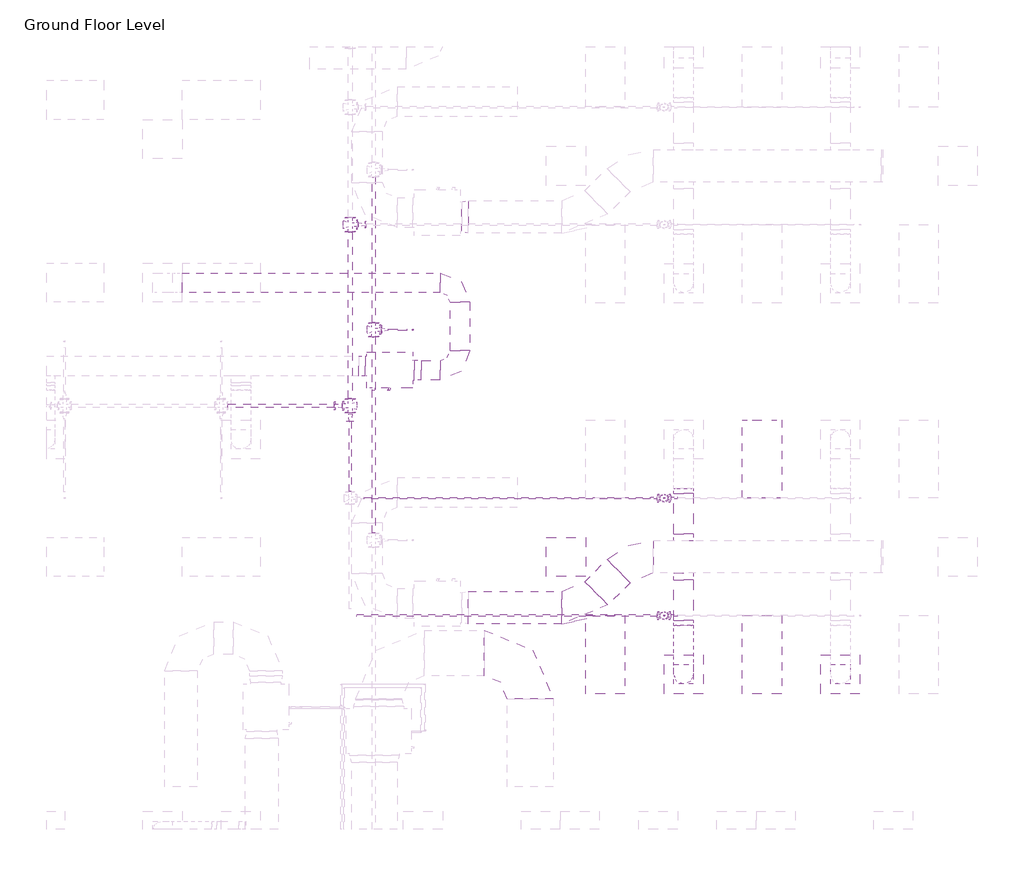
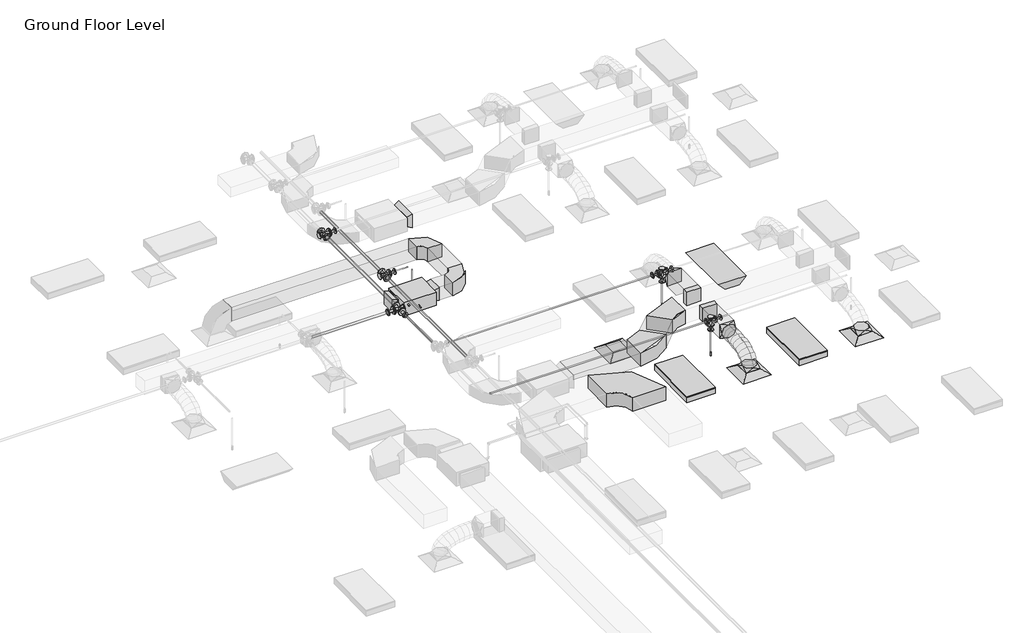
# One storey, part 35 of 66: 14 duct fittings, 14 pipe fittings, 11 pipe segments, 8 duct segments, 3 air terminals, 3 fire suppression terminals, 3 light fixtures, 1 proxy.
"""IFC4 building model written with IfcOpenShell, lengths in millimetres."""

from ifc_helpers import new_model, si_unit, point, frame, frame_2d, origin, place, context, project, spatial, polyline, circle_curve, ellipse_curve, trimmed, segment, composite_curve, outline, extrude, transform, mapped, element, save
from ifc_brep_helpers import plane_surface, cylinder_surface, advanced_brep
from components import m_return_diffuser_600_x_600_face_300_x_300_connection_ff221211, fcu_daikin_iu_27d020f6, m_rectangular_elbow_radius_1_w_618da153, m_rectangular_elbow_radius_1_w_8a62b27e, m_rectangular_elbow_radius_1_5_w_acc56c25, m_rectangular_takeoff_standard_cb0ccb98, m_rectangular_takeoff_standard_2be5eba1, m_rectangular_transition_angle_45_degree_2b595dfe, m_rectangular_transition_angle_45_degree_bfac0661, m_rectangular_transition_angle_45_degree_da897c11, m_rectangular_to_round_transition_angle_45_degree_641efff0, m_sprinkler_dry_pendent_hosted_15_mm_dry_pendent_9bda8e11, m_sprinkler_pendent_15_mm_pendent_06fcbd8e, m_emergency_recessed_lighting_fixture_600x1200_277_5b10b25d, m_troffer_light_parabolic_rectangular1_0600x1200mm_4_lamp_86473d4a, m_reducer_flanged_cs_class_150_standard_ccf252ad, m_reducer_flanged_cs_class_150_standard_83138b42, m_reducer_flanged_cs_class_150_standard_3ab32b2b, m_reducer_flanged_cs_class_150_standard_a7631c35, m_tee_round_base_flanged_cs_class_150_standard_dd767e04, m_tee_round_base_flanged_cs_class_150_standard_7e5987a1, m_tee_round_base_flanged_cs_class_150_standard_ab36f383

model = new_model("IFC4")

# Units and contexts
model_context = context("Model", 3, world=origin())
ifc_project = project(units=[si_unit("LENGTHUNIT", "METRE", prefix="MILLI")], contexts=[model_context])

# Site, building, storey
site = spatial("IfcSite", under=ifc_project)
building = spatial("IfcBuilding", under=site)
storey = spatial("IfcBuildingStorey", under=building, Name="Ground Floor Level", Elevation=900.0)

# Air terminals
placement = place(None, origin())
m_return_diffuser_600_x_600_face_300_x_300_connection_shape = m_return_diffuser_600_x_600_face_300_x_300_connection_ff221211(model_context)
element("IfcAirTerminal", 1, ObjectType="M_Return Diffuser : 600 x 600 Face 300 x 300 Connection", at=placement, inside=storey, context=model_context, shape_type="MappedRepresentation", body=[
    mapped(m_return_diffuser_600_x_600_face_300_x_300_connection_shape, transform((8942.7672395, -5264.7846466, 3650.0), x_axis=(1.0, 0.0, 0.0), y_axis=(0.0, 1.0, 0.0), z_axis=(0.0, 0.0, 1.0))),
])
element("IfcAirTerminal", 2, ObjectType="M_Supply Diffuser : 600 x 600 Face 300 x 300 Connection", at=placement, inside=storey, context=model_context, shape_type="MappedRepresentation", body=[
    mapped(m_return_diffuser_600_x_600_face_300_x_300_connection_shape, transform((10742.7672395, -7064.7846466, 3650.0), x_axis=(1.0, 0.0, 0.0), y_axis=(0.0, 1.0, 0.0), z_axis=(0.0, 0.0, 1.0))),
])
element("IfcAirTerminal", 3, ObjectType="M_Supply Diffuser : 600 x 600 Face 300 x 300 Connection", at=placement, inside=storey, context=model_context, shape_type="MappedRepresentation", body=[
    mapped(m_return_diffuser_600_x_600_face_300_x_300_connection_shape, transform((13142.7672395, -7064.7846466, 3650.0), x_axis=(1.0, 0.0, 0.0), y_axis=(0.0, 1.0, 0.0), z_axis=(0.0, 0.0, 1.0))),
])

# Proxy
fcu_daikin_iu_shape = fcu_daikin_iu_27d020f6(model_context)
element("IfcBuildingElementProxy", 4, Name="FCU-DAIKIN IU : 2.3kW, 230V/50Hz/1Ph", ObjectType="FCU-DAIKIN IU : 2.3kW, 230V/50Hz/1Ph", at=placement, inside=storey, context=model_context, shape_type="MappedRepresentation", body=[
    mapped(fcu_daikin_iu_shape, transform((6243.4139492, -2405.2438478, 3934.0874667), x_axis=(0.0, -1.0, 0.0), y_axis=(1.0, 0.0, 0.0), z_axis=(0.0, 0.0, 1.0))),
])

# Duct fittings
m_rectangular_elbow_radius_1_w_shape = m_rectangular_elbow_radius_1_w_618da153(model_context)
element("IfcDuctFitting", 5, ObjectType="M_Rectangular Elbow - Radius : 1 W", at=placement, inside=storey, context=model_context, shape_type="MappedRepresentation", body=[
    mapped(m_rectangular_elbow_radius_1_w_shape, transform((7318.8139492, -2405.2438478, 4075.2874667), x_axis=(1.0, 0.0, 0.0), y_axis=(0.0, 1.0, 0.0), z_axis=(0.0, 0.0, 1.0))),
])
element("IfcDuctFitting", 6, ObjectType="M_Rectangular Elbow - Radius : 1 W", at=placement, inside=storey, context=model_context, shape_type="MappedRepresentation", body=[
    mapped(m_rectangular_elbow_radius_1_w_shape, transform((7318.8139492, -1064.7846466, 4075.2874667), x_axis=(0.0, 1.0, 0.0), y_axis=(-1.0, 0.0, 0.0), z_axis=(0.0, 0.0, 1.0))),
])
m_rectangular_elbow_radius_1_w_2_shape = m_rectangular_elbow_radius_1_w_8a62b27e(model_context)
element("IfcDuctFitting", 7, ObjectType="M_Rectangular Elbow - Radius : 1 W", at=placement, inside=storey, context=model_context, shape_type="MappedRepresentation", body=[
    mapped(m_rectangular_elbow_radius_1_w_2_shape, transform((8393.4139492, -6738.5358641, 4075.2875), x_axis=(0.0, 1.0, 0.0), y_axis=(-1.0, 0.0, 0.0), z_axis=(0.0, 0.0, 1.0))),
])
m_rectangular_elbow_radius_1_5_w_shape = m_rectangular_elbow_radius_1_5_w_acc56c25(model_context)
element("IfcDuctFitting", 8, ObjectType="M_Rectangular Elbow - Radius : 1.5 W", at=placement, inside=storey, context=model_context, shape_type="MappedRepresentation", body=[
    mapped(m_rectangular_elbow_radius_1_5_w_shape, transform((9187.6927358, -6043.8220473, 4100.0047224), x_axis=(0.9999999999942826, 0.0, -3.3815582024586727e-06), y_axis=(-9.063610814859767e-12, 0.9999999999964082, -2.680306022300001e-06), z_axis=(3.3815582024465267e-06, 2.6803060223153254e-06, 0.9999999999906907))),
])
element("IfcDuctFitting", 9, ObjectType="M_Rectangular Elbow - Radius : 1.5 W", at=placement, inside=storey, context=model_context, shape_type="MappedRepresentation", body=[
    mapped(m_rectangular_elbow_radius_1_5_w_shape, transform((9966.7301365, -5264.7846466, 4100.0), x_axis=(-1.0, 0.0, 0.0), y_axis=(0.0, -0.9999999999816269, 6.061864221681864e-06), z_axis=(0.0, 6.061864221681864e-06, 0.9999999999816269))),
])
m_rectangular_takeoff_standard_shape = m_rectangular_takeoff_standard_cb0ccb98(model_context)
element("IfcDuctFitting", 10, ObjectType="M_Rectangular Takeoff : Standard", at=placement, inside=storey, context=model_context, shape_type="MappedRepresentation", body=[
    mapped(m_rectangular_takeoff_standard_shape, transform((10742.7672395, -5014.7846466, 4100.0), x_axis=(0.0, 1.0, 0.0), y_axis=(1.0, 0.0, 0.0), z_axis=(0.0, 0.0, -1.0))),
])
m_rectangular_takeoff_standard_2_shape = m_rectangular_takeoff_standard_2be5eba1(model_context)
element("IfcDuctFitting", 11, ObjectType="M_Rectangular Takeoff : Standard", at=placement, inside=storey, context=model_context, shape_type="MappedRepresentation", body=[
    mapped(m_rectangular_takeoff_standard_2_shape, transform((10742.7672395, -5514.7846466, 4100.0), x_axis=(0.0, -1.0, 0.0), y_axis=(-1.0, 0.0, 0.0), z_axis=(0.0, 0.0, -1.0))),
])
m_rectangular_transition_angle_45_degree_shape = m_rectangular_transition_angle_45_degree_2b595dfe(model_context)
element("IfcDuctFitting", 12, ObjectType="M_Rectangular Transition - Angle : 45 Degree", at=placement, inside=storey, context=model_context, shape_type="MappedRepresentation", body=[
    mapped(m_rectangular_transition_angle_45_degree_shape, transform((7344.2139492, -53.8220473, 4100.0057729), x_axis=(1.0, 0.0, 0.0), y_axis=(0.0, 1.0, 0.0), z_axis=(0.0, 0.0, 1.0))),
])
m_rectangular_transition_angle_45_degree_2_shape = m_rectangular_transition_angle_45_degree_bfac0661(model_context)
element("IfcDuctFitting", 13, ObjectType="M_Rectangular Transition - Angle : 45 Degree", at=placement, inside=storey, context=model_context, shape_type="MappedRepresentation", body=[
    mapped(m_rectangular_transition_angle_45_degree_2_shape, transform((6618.8139492, -2405.2438478, 4075.2874667), x_axis=(1.0, 0.0, 0.0), y_axis=(0.0, 1.0, 0.0), z_axis=(0.0, 0.0, 1.0))),
])
m_rectangular_transition_angle_45_degree_3_shape = m_rectangular_transition_angle_45_degree_da897c11(model_context)
element("IfcDuctFitting", 14, ObjectType="M_Rectangular Transition - Angle : 45 Degree", at=placement, inside=storey, context=model_context, shape_type="MappedRepresentation", body=[
    mapped(m_rectangular_transition_angle_45_degree_3_shape, transform((5868.0139492, -2341.7438478, 4099.9999667), x_axis=(-1.0, 0.0, 0.0), y_axis=(0.0, -1.0, 0.0), z_axis=(0.0, 0.0, 1.0))),
])
m_rectangular_to_round_transition_angle_45_degree_shape = m_rectangular_to_round_transition_angle_45_degree_641efff0(model_context)
element("IfcDuctFitting", 15, ObjectType="M_Rectangular to Round Transition - Angle : 45 Degree", at=placement, inside=storey, context=model_context, shape_type="MappedRepresentation", body=[
    mapped(m_rectangular_to_round_transition_angle_45_degree_shape, transform((10742.7672395, -7064.7846466, 3751.6), x_axis=(0.0, 0.0, 1.0), y_axis=(-1.0, 0.0, 0.0), z_axis=(0.0, -1.0, 0.0))),
])
element("IfcDuctFitting", 16, ObjectType="M_Rectangular to Round Transition - Angle : 45 Degree", at=placement, inside=storey, context=model_context, shape_type="MappedRepresentation", body=[
    mapped(m_rectangular_to_round_transition_angle_45_degree_shape, transform((10742.7672395, -6237.4487153, 4100.0), x_axis=(0.0, -1.0, 0.0), y_axis=(1.0, 0.0, 0.0), z_axis=(0.0, 0.0, 1.0))),
])
element("IfcDuctFitting", 17, ObjectType="M_Rectangular to Round Transition - Angle : 45 Degree", at=placement, inside=storey, context=model_context, shape_type="MappedRepresentation", body=[
    mapped(m_rectangular_to_round_transition_angle_45_degree_shape, transform((13142.7672395, -7064.7846466, 3751.6), x_axis=(0.0, 0.0, 1.0), y_axis=(-1.0, 0.0, 0.0), z_axis=(0.0, -1.0, 0.0))),
])
element("IfcDuctFitting", 18, ObjectType="M_Rectangular to Round Transition - Angle : 45 Degree", at=placement, inside=storey, context=model_context, shape_type="MappedRepresentation", body=[
    mapped(m_rectangular_to_round_transition_angle_45_degree_shape, transform((10742.7672395, -4292.1205779, 4100.0), x_axis=(0.0, 1.0, 0.0), y_axis=(-1.0, 0.0, 0.0), z_axis=(0.0, 0.0, 1.0))),
])

# Duct segments
element("IfcDuctSegment", 19, ObjectType="Flex - Round", at=placement, inside=storey, context=model_context, shape_type="AdvancedBrep", body=[
    advanced_brep(
    [(10892.7672395, -7064.7846466, 3826.6), (10742.7672395, -7214.7846466, 3826.6), (10592.7672395, -7064.7846466, 3826.6), (10742.7672395, -6914.7846466, 3826.6), (10892.7672395, -7064.7846466, 3857.9377114), (10742.7672395, -7214.7846466, 3883.5809337), (10592.7672395, -7064.7846466, 3857.9377114), (10742.7672395, -6914.7846466, 3832.2944892), (10892.7672395, -7047.7687141, 3906.2505728), (10742.7672395, -7181.506693, 3978.0660967), (10592.7672395, -7047.7687141, 3906.2505728), (10742.7672395, -6914.0307351, 3834.435049), (10892.7672395, -7000.5848337, 3968.7113131), (10742.7672395, -7104.7907329, 4079.6206026), (10592.7672395, -7000.5848337, 3968.7113131), (10742.7672395, -6896.3789345, 3857.8020236), (10892.7672395, -6929.0288815, 4016.0700639), (10742.7672395, -6997.9629372, 4150.3237489), (10592.7672395, -6929.0288815, 4016.0700639), (10742.7672395, -6860.0948259, 3881.8163788), (10892.7672395, -6838.8967335, 4050.4146682), (10742.7672395, -6882.4574967, 4194.3367758), (10592.7672395, -6838.8967335, 4050.4146682), (10742.7672395, -6795.3359704, 3906.4925606), (10892.7672395, -6735.9842657, 4073.8329691), (10742.7672395, -6762.5451897, 4221.6234841), (10592.7672395, -6735.9842657, 4073.8329691), (10742.7672395, -6709.4233417, 3926.0424542), (10892.7672395, -6626.087354, 4088.4128097), (10742.7672395, -6641.2382563, 4237.7170733), (10592.7672395, -6626.087354, 4088.4128097), (10742.7672395, -6610.9364516, 3939.1085462), (10892.7672395, -6515.0018743, 4096.242033), (10742.7672395, -6522.5072025, 4246.085151), (10592.7672395, -6515.0018743, 4096.242033), (10742.7672395, -6507.4965462, 3946.398915), (10892.7672395, -6408.5237028, 4099.4084821), (10742.7672395, -6411.2151959, 4249.394754), (10592.7672395, -6408.5237028, 4099.4084821), (10742.7672395, -6405.8322097, 3949.4222102), (10892.7672395, -6312.4487153, 4100.0), (10742.7672395, -6311.5252075, 3950.0028429), (10592.7672395, -6312.4487153, 4100.0), (10742.7672395, -6313.3722232, 4249.9971571)],
    [
        (0, 1, circle_curve(frame((10742.7672395, -7064.7846466, 3826.6), z_axis=(0.0, 0.0, -1.0), x_axis=(1.0, 0.0, 0.0)), 150.0)),
        (1, 2, circle_curve(frame((10742.7672395, -7064.7846466, 3826.6), z_axis=(0.0, 0.0, -1.0), x_axis=(1.0, 0.0, 0.0)), 150.0)),
        (2, 3, circle_curve(frame((10742.7672395, -7064.7846466, 3826.6), z_axis=(0.0, 0.0, -1.0), x_axis=(1.0, 0.0, 0.0)), 150.0)),
        (3, 0, circle_curve(frame((10742.7672395, -7064.7846466, 3826.6), z_axis=(0.0, 0.0, -1.0), x_axis=(1.0, 0.0, 0.0)), 150.0)),
        (0, 4),
        (4, 5, ellipse_curve(frame((10742.7672395, -7064.7846466, 3857.9377114), z_axis=(0.0, -0.16851014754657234, -0.9856999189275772), x_axis=(0.0, 0.9856999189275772, -0.1685101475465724)), 152.176131, 150.0)),
        (5, 1),
        (5, 6, ellipse_curve(frame((10742.7672395, -7064.7846466, 3857.9377114), z_axis=(0.0, -0.16851014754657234, -0.9856999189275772), x_axis=(0.0, 0.9856999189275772, -0.1685101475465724)), 152.176131, 150.0)),
        (6, 2),
        (6, 7, ellipse_curve(frame((10742.7672395, -7064.7846466, 3857.9377114), z_axis=(0.0, -0.16851014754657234, -0.9856999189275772), x_axis=(0.0, 0.9856999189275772, -0.1685101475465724)), 152.176131, 150.0)),
        (7, 3),
        (7, 4, ellipse_curve(frame((10742.7672395, -7064.7846466, 3857.9377114), z_axis=(0.0, -0.16851014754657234, -0.9856999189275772), x_axis=(0.0, 0.9856999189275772, -0.1685101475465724)), 152.176131, 150.0)),
        (4, 8),
        (8, 9, ellipse_curve(frame((10742.7672395, -7047.7687141, 3906.2505728), z_axis=(0.0, -0.4730922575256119, -0.8810128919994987), x_axis=(0.0, 0.8810128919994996, -0.47309225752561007)), 151.8002519, 150.0)),
        (9, 5),
        (9, 10, ellipse_curve(frame((10742.7672395, -7047.7687141, 3906.2505728), z_axis=(0.0, -0.4730922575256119, -0.8810128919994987), x_axis=(0.0, 0.8810128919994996, -0.47309225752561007)), 151.8002519, 150.0)),
        (10, 6),
        (10, 11, ellipse_curve(frame((10742.7672395, -7047.7687141, 3906.2505728), z_axis=(0.0, -0.4730922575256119, -0.8810128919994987), x_axis=(0.0, 0.8810128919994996, -0.47309225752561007)), 151.8002519, 150.0)),
        (11, 7),
        (11, 8, ellipse_curve(frame((10742.7672395, -7047.7687141, 3906.2505728), z_axis=(0.0, -0.4730922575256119, -0.8810128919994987), x_axis=(0.0, 0.8810128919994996, -0.47309225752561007)), 151.8002519, 150.0)),
        (8, 12),
        (12, 13, ellipse_curve(frame((10742.7672395, -7000.5848337, 3968.7113131), z_axis=(0.0, -0.7287877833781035, -0.6847396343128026), x_axis=(0.0, 0.6847396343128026, -0.7287877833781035)), 152.1832446, 150.0)),
        (13, 9),
        (13, 14, ellipse_curve(frame((10742.7672395, -7000.5848337, 3968.7113131), z_axis=(0.0, -0.7287877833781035, -0.6847396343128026), x_axis=(0.0, 0.6847396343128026, -0.7287877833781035)), 152.1832446, 150.0)),
        (14, 10),
        (14, 15, ellipse_curve(frame((10742.7672395, -7000.5848337, 3968.7113131), z_axis=(0.0, -0.7287877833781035, -0.6847396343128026), x_axis=(0.0, 0.6847396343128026, -0.7287877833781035)), 152.1832446, 150.0)),
        (15, 11),
        (15, 12, ellipse_curve(frame((10742.7672395, -7000.5848337, 3968.7113131), z_axis=(0.0, -0.7287877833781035, -0.6847396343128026), x_axis=(0.0, 0.6847396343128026, -0.7287877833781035)), 152.1832446, 150.0)),
        (12, 16),
        (16, 17, ellipse_curve(frame((10742.7672395, -6929.0288815, 4016.0700639), z_axis=(0.0, -0.8895859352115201, -0.4567678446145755), x_axis=(0.0, 0.45676784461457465, -0.8895859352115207)), 150.91705, 150.0)),
        (17, 13),
        (17, 18, ellipse_curve(frame((10742.7672395, -6929.0288815, 4016.0700639), z_axis=(0.0, -0.8895859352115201, -0.4567678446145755), x_axis=(0.0, 0.45676784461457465, -0.8895859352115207)), 150.91705, 150.0)),
        (18, 14),
        (18, 19, ellipse_curve(frame((10742.7672395, -6929.0288815, 4016.0700639), z_axis=(0.0, -0.8895859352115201, -0.4567678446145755), x_axis=(0.0, 0.45676784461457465, -0.8895859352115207)), 150.91705, 150.0)),
        (19, 15),
        (19, 16, ellipse_curve(frame((10742.7672395, -6929.0288815, 4016.0700639), z_axis=(0.0, -0.8895859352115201, -0.4567678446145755), x_axis=(0.0, 0.45676784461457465, -0.8895859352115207)), 150.91705, 150.0)),
        (16, 20),
        (20, 21, ellipse_curve(frame((10742.7672395, -6838.8967335, 4050.4146682), z_axis=(0.0, -0.9571203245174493, -0.28969067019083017), x_axis=(0.0, 0.28969067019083, -0.9571203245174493)), 150.369921, 150.0)),
        (21, 17),
        (21, 22, ellipse_curve(frame((10742.7672395, -6838.8967335, 4050.4146682), z_axis=(0.0, -0.9571203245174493, -0.28969067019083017), x_axis=(0.0, 0.28969067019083, -0.9571203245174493)), 150.369921, 150.0)),
        (22, 18),
        (22, 23, ellipse_curve(frame((10742.7672395, -6838.8967335, 4050.4146682), z_axis=(0.0, -0.9571203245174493, -0.28969067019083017), x_axis=(0.0, 0.28969067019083, -0.9571203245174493)), 150.369921, 150.0)),
        (23, 19),
        (23, 20, ellipse_curve(frame((10742.7672395, -6838.8967335, 4050.4146682), z_axis=(0.0, -0.9571203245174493, -0.28969067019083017), x_axis=(0.0, 0.28969067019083, -0.9571203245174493)), 150.369921, 150.0)),
        (20, 24),
        (24, 25, ellipse_curve(frame((10742.7672395, -6735.9842657, 4073.8329691), z_axis=(0.0, -0.9842313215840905, -0.1768861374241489), x_axis=(0.0, 0.17688613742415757, -0.9842313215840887)), 150.1583131, 150.0)),
        (25, 21),
        (25, 26, ellipse_curve(frame((10742.7672395, -6735.9842657, 4073.8329691), z_axis=(0.0, -0.9842313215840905, -0.1768861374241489), x_axis=(0.0, 0.17688613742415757, -0.9842313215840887)), 150.1583131, 150.0)),
        (26, 22),
        (26, 27, ellipse_curve(frame((10742.7672395, -6735.9842657, 4073.8329691), z_axis=(0.0, -0.9842313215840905, -0.1768861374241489), x_axis=(0.0, 0.17688613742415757, -0.9842313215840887)), 150.1583131, 150.0)),
        (27, 23),
        (27, 24, ellipse_curve(frame((10742.7672395, -6735.9842657, 4073.8329691), z_axis=(0.0, -0.9842313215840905, -0.1768861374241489), x_axis=(0.0, 0.17688613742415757, -0.9842313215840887)), 150.1583131, 150.0)),
        (24, 28),
        (28, 29, ellipse_curve(frame((10742.7672395, -6626.087354, 4088.4128097), z_axis=(0.0, -0.9948906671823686, -0.10095821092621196), x_axis=(0.0, 0.10095821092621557, -0.9948906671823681)), 150.0710264, 150.0)),
        (29, 25),
        (29, 30, ellipse_curve(frame((10742.7672395, -6626.087354, 4088.4128097), z_axis=(0.0, -0.9948906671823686, -0.10095821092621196), x_axis=(0.0, 0.10095821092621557, -0.9948906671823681)), 150.0710264, 150.0)),
        (30, 26),
        (30, 31, ellipse_curve(frame((10742.7672395, -6626.087354, 4088.4128097), z_axis=(0.0, -0.9948906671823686, -0.10095821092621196), x_axis=(0.0, 0.10095821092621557, -0.9948906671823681)), 150.0710264, 150.0)),
        (31, 27),
        (31, 28, ellipse_curve(frame((10742.7672395, -6626.087354, 4088.4128097), z_axis=(0.0, -0.9948906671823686, -0.10095821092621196), x_axis=(0.0, 0.10095821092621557, -0.9948906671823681)), 150.0710264, 150.0)),
        (28, 32),
        (32, 33, ellipse_curve(frame((10742.7672395, -6515.0018743, 4096.242033), z_axis=(0.0, -0.9987479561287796, -0.05002519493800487), x_axis=(0.0, 0.050025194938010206, -0.9987479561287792)), 150.0309634, 150.0)),
        (33, 29),
        (33, 34, ellipse_curve(frame((10742.7672395, -6515.0018743, 4096.242033), z_axis=(0.0, -0.9987479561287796, -0.05002519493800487), x_axis=(0.0, 0.050025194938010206, -0.9987479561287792)), 150.0309634, 150.0)),
        (34, 30),
        (34, 35, ellipse_curve(frame((10742.7672395, -6515.0018743, 4096.242033), z_axis=(0.0, -0.9987479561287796, -0.05002519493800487), x_axis=(0.0, 0.050025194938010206, -0.9987479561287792)), 150.0309634, 150.0)),
        (35, 31),
        (35, 32, ellipse_curve(frame((10742.7672395, -6515.0018743, 4096.242033), z_axis=(0.0, -0.9987479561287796, -0.05002519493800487), x_axis=(0.0, 0.050025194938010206, -0.9987479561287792)), 150.0309634, 150.0)),
        (32, 36),
        (36, 37, ellipse_curve(frame((10742.7672395, -6408.5237028, 4099.4084821), z_axis=(0.0, -0.9998390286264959, -0.017942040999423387), x_axis=(0.0, 0.01794204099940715, -0.9998390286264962)), 150.0104193, 150.0)),
        (37, 33),
        (37, 38, ellipse_curve(frame((10742.7672395, -6408.5237028, 4099.4084821), z_axis=(0.0, -0.9998390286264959, -0.017942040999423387), x_axis=(0.0, 0.01794204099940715, -0.9998390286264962)), 150.0104193, 150.0)),
        (38, 34),
        (38, 39, ellipse_curve(frame((10742.7672395, -6408.5237028, 4099.4084821), z_axis=(0.0, -0.9998390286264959, -0.017942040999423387), x_axis=(0.0, 0.01794204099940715, -0.9998390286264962)), 150.0104193, 150.0)),
        (39, 35),
        (39, 36, ellipse_curve(frame((10742.7672395, -6408.5237028, 4099.4084821), z_axis=(0.0, -0.9998390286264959, -0.017942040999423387), x_axis=(0.0, 0.01794204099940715, -0.9998390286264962)), 150.0104193, 150.0)),
        (40, 41, circle_curve(frame((10742.7672395, -6312.4487153, 4100.0), z_axis=(0.0, 0.9999810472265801, 0.0061567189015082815), x_axis=(1.0, 0.0, 0.0)), 150.0)),
        (41, 42, circle_curve(frame((10742.7672395, -6312.4487153, 4100.0), z_axis=(0.0, 0.9999810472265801, 0.0061567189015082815), x_axis=(1.0, 0.0, 0.0)), 150.0)),
        (42, 43, circle_curve(frame((10742.7672395, -6312.4487153, 4100.0), z_axis=(0.0, 0.9999810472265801, 0.0061567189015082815), x_axis=(1.0, 0.0, 0.0)), 150.0)),
        (43, 40, circle_curve(frame((10742.7672395, -6312.4487153, 4100.0), z_axis=(0.0, 0.9999810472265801, 0.0061567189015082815), x_axis=(1.0, 0.0, 0.0)), 150.0)),
        (36, 40),
        (43, 37),
        (42, 38),
        (41, 39),
    ],
    [
        plane_surface(frame((10742.7672395, -7214.7846466, 3826.6), z_axis=(0.0, 0.0, -1.0), x_axis=(1.0, 0.0, 0.0))),
        cylinder_surface(frame((10742.7672395, -7064.7846466, 3826.6), z_axis=(0.0, 0.0, -1.0), x_axis=(1.0, 0.0, 0.0)), 150.0),
        cylinder_surface(frame((10742.7672395, -7064.7846466, 3857.9377114), z_axis=(0.0, -0.3322008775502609, -0.9432086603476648), x_axis=(1.0, 0.0, 0.0)), 150.0),
        cylinder_surface(frame((10742.7672395, -7047.7687141, 3906.2505728), z_axis=(0.0, -0.6027625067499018, -0.7979206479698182), x_axis=(1.0, 0.0, 0.0)), 150.0),
        cylinder_surface(frame((10742.7672395, -7000.5848337, 3968.7113131), z_axis=(0.0, -0.8339024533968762, -0.5519118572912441), x_axis=(1.0, 0.0, 0.0)), 150.0),
        cylinder_surface(frame((10742.7672395, -6929.0288815, 4016.0700639), z_axis=(0.0, -0.9344582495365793, -0.3560727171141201), x_axis=(1.0, 0.0, 0.0)), 150.0),
        cylinder_surface(frame((10742.7672395, -6838.8967335, 4050.4146682), z_axis=(0.0, -0.9750732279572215, -0.2218833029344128), x_axis=(1.0, 0.0, 0.0)), 150.0),
        cylinder_surface(frame((10742.7672395, -6735.9842657, 4073.8329691), z_axis=(0.0, -0.9913140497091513, -0.13151598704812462), x_axis=(1.0, 0.0, 0.0)), 150.0),
        cylinder_surface(frame((10742.7672395, -6626.087354, 4088.4128097), z_axis=(0.0, -0.9975255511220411, -0.07030487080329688), x_axis=(1.0, 0.0, 0.0)), 150.0),
        cylinder_surface(frame((10742.7672395, -6515.0018743, 4096.242033), z_axis=(0.0, -0.9995581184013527, -0.02972487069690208), x_axis=(1.0, 0.0, 0.0)), 150.0),
        plane_surface(frame((10742.7672395, -6313.3722232, 4249.9971571), z_axis=(0.0, 0.9999810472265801, 0.0061567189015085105), x_axis=(1.0, 0.0, 0.0))),
        cylinder_surface(frame((10742.7672395, -6408.5237028, 4099.4084821), z_axis=(0.0, -0.9999810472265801, -0.0061567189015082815), x_axis=(1.0, 0.0, 0.0)), 150.0),
    ],
    [
        (0, [[1, 2, 3, 4]]),
        (1, [[-1, 5, 6, 7]]),
        (1, [[-2, -7, 8, 9]]),
        (1, [[-3, -9, 10, 11]]),
        (1, [[-4, -11, 12, -5]]),
        (2, [[-6, 13, 14, 15]]),
        (2, [[-8, -15, 16, 17]]),
        (2, [[-10, -17, 18, 19]]),
        (2, [[-12, -19, 20, -13]]),
        (3, [[-14, 21, 22, 23]]),
        (3, [[-16, -23, 24, 25]]),
        (3, [[-18, -25, 26, 27]]),
        (3, [[-20, -27, 28, -21]]),
        (4, [[-22, 29, 30, 31]]),
        (4, [[-24, -31, 32, 33]]),
        (4, [[-26, -33, 34, 35]]),
        (4, [[-28, -35, 36, -29]]),
        (5, [[-30, 37, 38, 39]]),
        (5, [[-32, -39, 40, 41]]),
        (5, [[-34, -41, 42, 43]]),
        (5, [[-36, -43, 44, -37]]),
        (6, [[-38, 45, 46, 47]]),
        (6, [[-40, -47, 48, 49]]),
        (6, [[-42, -49, 50, 51]]),
        (6, [[-44, -51, 52, -45]]),
        (7, [[-46, 53, 54, 55]]),
        (7, [[-48, -55, 56, 57]]),
        (7, [[-50, -57, 58, 59]]),
        (7, [[-52, -59, 60, -53]]),
        (8, [[-54, 61, 62, 63]]),
        (8, [[-56, -63, 64, 65]]),
        (8, [[-58, -65, 66, 67]]),
        (8, [[-60, -67, 68, -61]]),
        (9, [[-62, 69, 70, 71]]),
        (9, [[-64, -71, 72, 73]]),
        (9, [[-66, -73, 74, 75]]),
        (9, [[-68, -75, 76, -69]]),
        (10, [[77, 78, 79, 80]]),
        (11, [[-70, 81, -80, 82]]),
        (11, [[-72, -82, -79, 83]]),
        (11, [[-74, -83, -78, 84]]),
        (11, [[-76, -84, -77, -81]]),
    ],
),
])
element("IfcDuctSegment", 20, ObjectType="Radius Elbows / Taps", at=placement, inside=storey, context=model_context, shape_type="SweptSolid", body=[
    extrude(outline(polyline([(7447.693178, -6293.8220473), (7447.693178, -5793.8220473), (8877.032564, -5793.8220473), (8877.032564, -6293.8220473), (7447.693178, -6293.8220473)])), frame((0.0, 0.0, 3950.0057729), z_axis=(0.0, 0.0, 1.0), x_axis=(1.0, 0.0, 0.0)), (0.0, 0.0, 1.0), 300.0),
])
element("IfcDuctSegment", 21, ObjectType="Radius Elbows / Taps", at=placement, inside=storey, context=model_context, shape_type="SweptSolid", body=[
    extrude(outline(polyline([(9584.1393452, -6000.9288285), (9230.5859546, -5647.3754379), (9570.2835271, -5307.6778654), (9923.8369177, -5661.231256), (9584.1393452, -6000.9288285)])), frame((0.0, 0.0, 3950.0033908), z_axis=(0.0, 0.0, 1.0), x_axis=(1.0, 0.0, 0.0)), (0.0, 0.0, 1.0), 300.0),
])
element("IfcDuctSegment", 22, ObjectType="Radius Elbows / Taps", at=placement, inside=storey, context=model_context, shape_type="SweptSolid", body=[
    extrude(outline(polyline([(6722.2630004, -2555.2438478), (6722.2630004, -2255.2438478), (7018.8139492, -2255.2438478), (7018.8139492, -2555.2438478), (6722.2630004, -2555.2438478)])), frame((0.0, 0.0, 3925.2874667), z_axis=(0.0, 0.0, 1.0), x_axis=(1.0, 0.0, 0.0)), (0.0, 0.0, 1.0), 300.0),
])
element("IfcDuctSegment", 23, ObjectType="Radius Elbows / Taps", at=placement, inside=storey, context=model_context, shape_type="SweptSolid", body=[
    extrude(outline(polyline([(7468.8139492, -2105.2438478), (7168.8139492, -2105.2438478), (7168.8139492, -1364.7846466), (7468.8139492, -1364.7846466), (7468.8139492, -2105.2438478)])), frame((0.0, 0.0, 3925.2874667), z_axis=(0.0, 0.0, 1.0), x_axis=(1.0, 0.0, 0.0)), (0.0, 0.0, 1.0), 300.0),
])
element("IfcDuctSegment", 24, ObjectType="Radius Elbows / Taps", at=placement, inside=storey, context=model_context, shape_type="SweptSolid", body=[
    extrude(outline(polyline([(3062.7672395, -1214.7846466), (3062.7672395, -914.7846466), (7018.8139492, -914.7846466), (7018.8139492, -1214.7846466), (3062.7672395, -1214.7846466)])), frame((0.0, 0.0, 3925.2874667), z_axis=(0.0, 0.0, 1.0), x_axis=(1.0, 0.0, 0.0)), (0.0, 0.0, 1.0), 300.0),
])
element("IfcDuctSegment", 25, ObjectType="Radius Elbows / Taps", at=placement, inside=storey, context=model_context, shape_type="SweptSolid", body=[
    extrude(outline(polyline([(10892.7672395, -4913.1846466), (10592.7672395, -4913.1846466), (10592.7672395, -4292.1205779), (10892.7672395, -4292.1205779), (10892.7672395, -4913.1846466)])), frame((0.0, 0.0, 3950.0), z_axis=(0.0, 0.0, 1.0), x_axis=(1.0, 0.0, 0.0)), (0.0, 0.0, 1.0), 300.0),
])
element("IfcDuctSegment", 26, ObjectType="Radius Elbows / Taps", at=placement, inside=storey, context=model_context, shape_type="SweptSolid", body=[
    extrude(outline(polyline([(10592.7672395, -5616.3846466), (10892.7672395, -5616.3846466), (10892.7672395, -6237.4487153), (10592.7672395, -6237.4487153), (10592.7672395, -5616.3846466)])), frame((0.0, 0.0, 3950.0), z_axis=(0.0, 0.0, 1.0), x_axis=(1.0, 0.0, 0.0)), (0.0, 0.0, 1.0), 300.0),
])

# Fire suppression terminals
m_sprinkler_dry_pendent_hosted_15_mm_dry_pendent_shape = m_sprinkler_dry_pendent_hosted_15_mm_dry_pendent_9bda8e11(model_context)
element("IfcFireSuppressionTerminal", 27, ObjectType="M_Sprinkler - Dry - Pendent - Hosted : 15 mm Dry Pendent", at=placement, inside=storey, context=model_context, shape_type="MappedRepresentation", body=[
    mapped(m_sprinkler_dry_pendent_hosted_15_mm_dry_pendent_shape, transform((10442.7672395, -4364.7846466, 3650.0), x_axis=(1.0, 0.0, 0.0), y_axis=(0.0, -1.0, 0.0), z_axis=(0.0, 0.0, -1.0))),
])
element("IfcFireSuppressionTerminal", 28, ObjectType="M_Sprinkler - Dry - Pendent - Hosted : 15 mm Dry Pendent", at=placement, inside=storey, context=model_context, shape_type="MappedRepresentation", body=[
    mapped(m_sprinkler_dry_pendent_hosted_15_mm_dry_pendent_shape, transform((10442.7672395, -6164.7846466, 3650.0), x_axis=(1.0, 0.0, 0.0), y_axis=(0.0, -1.0, 0.0), z_axis=(0.0, 0.0, -1.0))),
])
m_sprinkler_pendent_15_mm_pendent_shape = m_sprinkler_pendent_15_mm_pendent_06fcbd8e(model_context)
element("IfcFireSuppressionTerminal", 29, ObjectType="M_Sprinkler - Pendent : 15 mm Pendent", at=placement, inside=storey, context=model_context, shape_type="MappedRepresentation", body=[
    mapped(m_sprinkler_pendent_15_mm_pendent_shape, transform((6592.5481019, -1785.2908301, 3650.0), x_axis=(1.0, 0.0, 0.0), y_axis=(0.0, 1.0, 0.0), z_axis=(0.0, 0.0, 1.0))),
])

# Light fixtures
m_emergency_recessed_lighting_fixture_600x1200_277_shape = m_emergency_recessed_lighting_fixture_600x1200_277_5b10b25d(model_context)
element("IfcLightFixture", 30, ObjectType="M_Emergency Recessed Lighting Fixture : 600x1200 - 277", at=placement, inside=storey, context=model_context, shape_type="MappedRepresentation", body=[
    mapped(m_emergency_recessed_lighting_fixture_600x1200_277_shape, transform((11642.7672395, -4364.7846466, 3650.0), x_axis=(0.0, 1.0, 0.0), y_axis=(-1.0, 0.0, 0.0), z_axis=(0.0, 0.0, 1.0))),
])
m_troffer_light_parabolic_rectangular1_0600x1200mm_4_lamp_shape = m_troffer_light_parabolic_rectangular1_0600x1200mm_4_lamp_86473d4a(model_context)
element("IfcLightFixture", 31, ObjectType="M_Troffer Light - Parabolic Rectangular1 : 0600x1200mm(4 Lamp) - 277V 2", at=placement, inside=storey, context=model_context, shape_type="MappedRepresentation", body=[
    mapped(m_troffer_light_parabolic_rectangular1_0600x1200mm_4_lamp_shape, transform((9483.3013074, -6746.081145, 3650.0), x_axis=(0.0, 1.0, 0.0), y_axis=(-1.0, 0.0, 0.0), z_axis=(0.0, 0.0, 1.0))),
])
element("IfcLightFixture", 32, ObjectType="M_Troffer Light - Parabolic Rectangular1 : 0600x1200mm(4 Lamp) - 277V 2", at=placement, inside=storey, context=model_context, shape_type="MappedRepresentation", body=[
    mapped(m_troffer_light_parabolic_rectangular1_0600x1200mm_4_lamp_shape, transform((11883.3013074, -6746.081145, 3650.0), x_axis=(0.0, 1.0, 0.0), y_axis=(-1.0, 0.0, 0.0), z_axis=(0.0, 0.0, 1.0))),
])

# Pipe fittings
m_reducer_flanged_cs_class_150_standard_shape = m_reducer_flanged_cs_class_150_standard_ccf252ad(model_context)
element("IfcPipeFitting", 33, ObjectType="M_Reducer - Flanged - CS - Class 150 : Standard", at=placement, inside=storey, context=model_context, shape_type="MappedRepresentation", body=[
    mapped(m_reducer_flanged_cs_class_150_standard_shape, transform((10342.0586457, -4364.7846466, 4360.0), x_axis=(-1.0, 0.0, 0.0), y_axis=(0.0, 0.0, -1.0), z_axis=(0.0, -1.0, 0.0))),
])
element("IfcPipeFitting", 34, ObjectType="M_Reducer - Flanged - CS - Class 150 : Standard", at=placement, inside=storey, context=model_context, shape_type="MappedRepresentation", body=[
    mapped(m_reducer_flanged_cs_class_150_standard_shape, transform((10543.4758332, -4364.7846466, 4360.0), x_axis=(1.0, 0.0, 0.0), y_axis=(0.0, 0.0, 1.0), z_axis=(0.0, -1.0, 0.0))),
])
element("IfcPipeFitting", 35, ObjectType="M_Reducer - Flanged - CS - Class 150 : Standard", at=placement, inside=storey, context=model_context, shape_type="MappedRepresentation", body=[
    mapped(m_reducer_flanged_cs_class_150_standard_shape, transform((10442.7672395, -4364.7846466, 4259.2914062), x_axis=(0.0, 0.0, -1.0), y_axis=(-1.0, 0.0, 0.0), z_axis=(0.0, 1.0, 0.0))),
])
element("IfcPipeFitting", 36, ObjectType="M_Reducer - Flanged - CS - Class 150 : Standard", at=placement, inside=storey, context=model_context, shape_type="MappedRepresentation", body=[
    mapped(m_reducer_flanged_cs_class_150_standard_shape, transform((10543.4758332, -6164.7846466, 4360.0), x_axis=(1.0, 0.0, 0.0), y_axis=(0.0, 0.0, 1.0), z_axis=(0.0, -1.0, 0.0))),
])
element("IfcPipeFitting", 37, ObjectType="M_Reducer - Flanged - CS - Class 150 : Standard", at=placement, inside=storey, context=model_context, shape_type="MappedRepresentation", body=[
    mapped(m_reducer_flanged_cs_class_150_standard_shape, transform((10442.7672395, -6164.7846466, 4259.2914063), x_axis=(0.0, 0.0, -1.0), y_axis=(-1.0, 0.0, 0.0), z_axis=(0.0, 1.0, 0.0))),
])
m_reducer_flanged_cs_class_150_standard_2_shape = m_reducer_flanged_cs_class_150_standard_83138b42(model_context)
element("IfcPipeFitting", 38, ObjectType="M_Reducer - Flanged - CS - Class 150 : Standard", at=placement, inside=storey, context=model_context, shape_type="MappedRepresentation", body=[
    mapped(m_reducer_flanged_cs_class_150_standard_2_shape, transform((6109.3164057, -1785.2908301, 4291.2754753), x_axis=(1.0, 0.0, 0.0), y_axis=(0.0, 0.0, -1.0), z_axis=(0.0, 1.0, 0.0))),
])
m_reducer_flanged_cs_class_150_standard_3_shape = m_reducer_flanged_cs_class_150_standard_3ab32b2b(model_context)
element("IfcPipeFitting", 39, ObjectType="M_Reducer - Flanged - CS - Class 150 : Standard", at=placement, inside=storey, context=model_context, shape_type="MappedRepresentation", body=[
    mapped(m_reducer_flanged_cs_class_150_standard_3_shape, transform((5521.869498, -2950.3491993, 4360.0), x_axis=(-1.0, 0.0, 0.0), y_axis=(0.0, -1.0, 0.0), z_axis=(0.0, 0.0, 1.0))),
])
m_reducer_flanged_cs_class_150_standard_4_shape = m_reducer_flanged_cs_class_150_standard_a7631c35(model_context)
element("IfcPipeFitting", 40, ObjectType="M_Reducer - Flanged - CS - Class 150 : Standard", at=placement, inside=storey, context=model_context, shape_type="MappedRepresentation", body=[
    mapped(m_reducer_flanged_cs_class_150_standard_4_shape, transform((5749.869498, -174.7846466, 4360.0), x_axis=(1.0, 0.0, 0.0), y_axis=(0.0, 0.0, 1.0), z_axis=(0.0, -1.0, 0.0))),
])
element("IfcPipeFitting", 41, ObjectType="M_Reducer - Flanged - CS - Class 150 : Standard", at=placement, inside=storey, context=model_context, shape_type="MappedRepresentation", body=[
    mapped(m_reducer_flanged_cs_class_150_standard_4_shape, transform((5635.869498, -3064.3491993, 4360.0), x_axis=(0.0, -1.0, 0.0), y_axis=(1.0, 0.0, 0.0), z_axis=(0.0, 0.0, 1.0))),
])
m_tee_round_base_flanged_cs_class_150_standard_shape = m_tee_round_base_flanged_cs_class_150_standard_dd767e04(model_context)
element("IfcPipeFitting", 42, ObjectType="M_Tee Round Base - Flanged - CS - Class 150 : Standard", at=placement, inside=storey, context=model_context, shape_type="MappedRepresentation", body=[
    mapped(m_tee_round_base_flanged_cs_class_150_standard_shape, transform((5635.869498, -174.7846466, 4360.0), x_axis=(0.0, 1.0, 0.0), y_axis=(-1.0, 0.0, 0.0), z_axis=(0.0, 0.0, 1.0))),
])
element("IfcPipeFitting", 43, ObjectType="M_Tee Round Base - Flanged - CS - Class 150 : Standard", at=placement, inside=storey, context=model_context, shape_type="MappedRepresentation", body=[
    mapped(m_tee_round_base_flanged_cs_class_150_standard_shape, transform((5635.869498, -2950.3491993, 4360.0), x_axis=(0.0, 1.0, 0.0), y_axis=(1.0, 0.0, 0.0), z_axis=(0.0, 0.0, -1.0))),
])
m_tee_round_base_flanged_cs_class_150_standard_2_shape = m_tee_round_base_flanged_cs_class_150_standard_7e5987a1(model_context)
element("IfcPipeFitting", 44, ObjectType="M_Tee Round Base - Flanged - CS - Class 150 : Standard", at=placement, inside=storey, context=model_context, shape_type="MappedRepresentation", body=[
    mapped(m_tee_round_base_flanged_cs_class_150_standard_2_shape, transform((10442.7672395, -4364.7846466, 4360.0), x_axis=(1.0, 0.0, 0.0), y_axis=(0.0, 0.0, 1.0), z_axis=(0.0, -1.0, 0.0))),
])
element("IfcPipeFitting", 45, ObjectType="M_Tee Round Base - Flanged - CS - Class 150 : Standard", at=placement, inside=storey, context=model_context, shape_type="MappedRepresentation", body=[
    mapped(m_tee_round_base_flanged_cs_class_150_standard_2_shape, transform((10442.7672395, -6164.7846466, 4360.0), x_axis=(1.0, 0.0, 0.0), y_axis=(0.0, 0.0, 1.0), z_axis=(0.0, -1.0, 0.0))),
])
m_tee_round_base_flanged_cs_class_150_standard_3_shape = m_tee_round_base_flanged_cs_class_150_standard_ab36f383(model_context)
element("IfcPipeFitting", 46, ObjectType="M_Tee Round Base - Flanged - CS - Class 150 : Standard", at=placement, inside=storey, context=model_context, shape_type="MappedRepresentation", body=[
    mapped(m_tee_round_base_flanged_cs_class_150_standard_3_shape, transform((5997.057812, -1785.2908301, 4291.0943441), x_axis=(0.0, 1.0, 0.0), y_axis=(-1.0, 0.0, 0.0), z_axis=(0.0, 0.0, 1.0))),
])

# Pipe segments
element("IfcPipeSegment", 47, ObjectType="Steel flanged", at=placement, inside=storey, context=model_context, shape_type="SweptSolid", body=[
    extrude(outline(composite_curve([segment(trimmed(circle_curve(frame_2d((6592.5481019, -1785.2908301)), 10.668), [point((6581.8801019, -1785.2908301))], [point((6592.5481019, -1774.6228301))], False, "CARTESIAN"), True, "CONTINUOUS"), segment(trimmed(circle_curve(frame_2d((6592.5481019, -1785.2908301)), 10.668), [point((6592.5481019, -1774.6228301))], [point((6603.2161019, -1785.2908301))], False, "CARTESIAN"), True, "CONTINUOUS"), segment(trimmed(circle_curve(frame_2d((6592.5481019, -1785.2908301)), 10.668), [point((6603.2161019, -1785.2908301))], [point((6592.5481019, -1795.9588301))], False, "CARTESIAN"), True, "CONTINUOUS"), segment(trimmed(circle_curve(frame_2d((6592.5481019, -1785.2908301)), 10.668), [point((6592.5481019, -1795.9588301))], [point((6581.8801019, -1785.2908301))], False, "CARTESIAN"), True, "CONTINUOUS")], self_intersect=False)), frame((0.0, 0.0, 3650.0), z_axis=(0.0, 0.0, 1.0), x_axis=(1.0, 0.0, 0.0)), (0.0, 0.0, 1.0), 548.2668816),
])
element("IfcPipeSegment", 48, ObjectType="Steel flanged", at=placement, inside=storey, context=model_context, shape_type="SweptSolid", body=[
    extrude(outline(composite_curve([segment(trimmed(circle_curve(frame_2d((-1785.2908301, 4291.2754753)), 10.668), [point((-1774.6228301, 4291.2754753))], [point((-1785.2908301, 4280.6074753))], False, "CARTESIAN"), True, "CONTINUOUS"), segment(trimmed(circle_curve(frame_2d((-1785.2908301, 4291.2754753)), 10.668), [point((-1785.2908301, 4280.6074753))], [point((-1795.9588301, 4291.2754753))], False, "CARTESIAN"), True, "CONTINUOUS"), segment(trimmed(circle_curve(frame_2d((-1785.2908301, 4291.2754753)), 10.668), [point((-1795.9588301, 4291.2754753))], [point((-1785.2908301, 4301.9434753))], False, "CARTESIAN"), True, "CONTINUOUS"), segment(trimmed(circle_curve(frame_2d((-1785.2908301, 4291.2754753)), 10.668), [point((-1785.2908301, 4301.9434753))], [point((-1774.6228301, 4291.2754753))], False, "CARTESIAN"), True, "CONTINUOUS")], self_intersect=False)), frame((6223.3164057, 0.0, 0.0), z_axis=(1.0, 0.0, 0.0), x_axis=(0.0, 1.0, 0.0)), (0.0, 0.0, 1.0), 276.2231025),
])
element("IfcPipeSegment", 49, ObjectType="Steel flanged", at=placement, inside=storey, context=model_context, shape_type="SweptSolid", body=[
    extrude(outline(composite_curve([segment(trimmed(circle_curve(frame_2d((4291.0943441, 5997.057812)), 24.13), [point((4291.0943441, 5972.927812))], [point((4266.9643441, 5997.057812))], False, "CARTESIAN"), True, "CONTINUOUS"), segment(trimmed(circle_curve(frame_2d((4291.0943441, 5997.057812)), 24.13), [point((4266.9643441, 5997.057812))], [point((4291.0943441, 6021.187812))], False, "CARTESIAN"), True, "CONTINUOUS"), segment(trimmed(circle_curve(frame_2d((4291.0943441, 5997.057812)), 24.13), [point((4291.0943441, 6021.187812))], [point((4315.2243441, 5997.057812))], False, "CARTESIAN"), True, "CONTINUOUS"), segment(trimmed(circle_curve(frame_2d((4291.0943441, 5997.057812)), 24.13), [point((4315.2243441, 5997.057812))], [point((4291.0943441, 5972.927812))], False, "CARTESIAN"), True, "CONTINUOUS")], self_intersect=False)), frame((0.0, -1673.0322363, 0.0), z_axis=(0.0, 1.0, 0.0), x_axis=(0.0, 0.0, 1.0)), (0.0, 0.0, 1.0), 2227.4228491),
])
element("IfcPipeSegment", 50, ObjectType="Steel flanged", at=placement, inside=storey, context=model_context, shape_type="SweptSolid", body=[
    extrude(outline(composite_curve([segment(trimmed(circle_curve(frame_2d((4291.0943441, 5997.057812)), 24.13), [point((4291.0943441, 5972.927812))], [point((4266.9643441, 5997.057812))], False, "CARTESIAN"), True, "CONTINUOUS"), segment(trimmed(circle_curve(frame_2d((4291.0943441, 5997.057812)), 24.13), [point((4266.9643441, 5997.057812))], [point((4291.0943441, 6021.187812))], False, "CARTESIAN"), True, "CONTINUOUS"), segment(trimmed(circle_curve(frame_2d((4291.0943441, 5997.057812)), 24.13), [point((4291.0943441, 6021.187812))], [point((4315.2243441, 5997.057812))], False, "CARTESIAN"), True, "CONTINUOUS"), segment(trimmed(circle_curve(frame_2d((4291.0943441, 5997.057812)), 24.13), [point((4315.2243441, 5997.057812))], [point((4291.0943441, 5972.927812))], False, "CARTESIAN"), True, "CONTINUOUS")], self_intersect=False)), frame((0.0, -4896.5778824, 0.0), z_axis=(0.0, 1.0, 0.0), x_axis=(0.0, 0.0, 1.0)), (0.0, 0.0, 1.0), 2999.0284585),
])
element("IfcPipeSegment", 51, ObjectType="Steel flanged", at=placement, inside=storey, context=model_context, shape_type="SweptSolid", body=[
    extrude(outline(composite_curve([segment(trimmed(circle_curve(frame_2d((4360.0, 5635.869498)), 16.7005), [point((4360.0, 5619.168998))], [point((4343.2995, 5635.869498))], False, "CARTESIAN"), True, "CONTINUOUS"), segment(trimmed(circle_curve(frame_2d((4360.0, 5635.869498)), 16.7005), [point((4343.2995, 5635.869498))], [point((4360.0, 5652.569998))], False, "CARTESIAN"), True, "CONTINUOUS"), segment(trimmed(circle_curve(frame_2d((4360.0, 5635.869498)), 16.7005), [point((4360.0, 5652.569998))], [point((4376.7005, 5635.869498))], False, "CARTESIAN"), True, "CONTINUOUS"), segment(trimmed(circle_curve(frame_2d((4360.0, 5635.869498)), 16.7005), [point((4376.7005, 5635.869498))], [point((4360.0, 5619.168998))], False, "CARTESIAN"), True, "CONTINUOUS")], self_intersect=False)), frame((0.0, -4264.0760529, 0.0), z_axis=(0.0, 1.0, 0.0), x_axis=(0.0, 0.0, 1.0)), (0.0, 0.0, 1.0), 1072.7268536),
])
element("IfcPipeSegment", 52, ObjectType="Steel flanged", at=placement, inside=storey, context=model_context, shape_type="SweptSolid", body=[
    extrude(outline(composite_curve([segment(trimmed(circle_curve(frame_2d((10442.7672395, -4364.7846466)), 10.668), [point((10432.0992395, -4364.7846466))], [point((10442.7672395, -4354.1166466))], False, "CARTESIAN"), True, "CONTINUOUS"), segment(trimmed(circle_curve(frame_2d((10442.7672395, -4364.7846466)), 10.668), [point((10442.7672395, -4354.1166466))], [point((10453.4352395, -4364.7846466))], False, "CARTESIAN"), True, "CONTINUOUS"), segment(trimmed(circle_curve(frame_2d((10442.7672395, -4364.7846466)), 10.668), [point((10453.4352395, -4364.7846466))], [point((10442.7672395, -4375.4526466))], False, "CARTESIAN"), True, "CONTINUOUS"), segment(trimmed(circle_curve(frame_2d((10442.7672395, -4364.7846466)), 10.668), [point((10442.7672395, -4375.4526466))], [point((10432.0992395, -4364.7846466))], False, "CARTESIAN"), True, "CONTINUOUS")], self_intersect=False)), frame((0.0, 0.0, 3650.0), z_axis=(0.0, 0.0, 1.0), x_axis=(1.0, 0.0, 0.0)), (0.0, 0.0, 1.0), 495.2914062),
])
element("IfcPipeSegment", 53, ObjectType="Steel flanged", at=placement, inside=storey, context=model_context, shape_type="SweptSolid", body=[
    extrude(outline(composite_curve([segment(trimmed(circle_curve(frame_2d((-4364.7846466, 4360.0)), 10.668), [point((-4354.1166466, 4360.0))], [point((-4364.7846466, 4349.332))], False, "CARTESIAN"), True, "CONTINUOUS"), segment(trimmed(circle_curve(frame_2d((-4364.7846466, 4360.0)), 10.668), [point((-4364.7846466, 4349.332))], [point((-4375.4526466, 4360.0))], False, "CARTESIAN"), True, "CONTINUOUS"), segment(trimmed(circle_curve(frame_2d((-4364.7846466, 4360.0)), 10.668), [point((-4375.4526466, 4360.0))], [point((-4364.7846466, 4370.668))], False, "CARTESIAN"), True, "CONTINUOUS"), segment(trimmed(circle_curve(frame_2d((-4364.7846466, 4360.0)), 10.668), [point((-4364.7846466, 4370.668))], [point((-4354.1166466, 4360.0))], False, "CARTESIAN"), True, "CONTINUOUS")], self_intersect=False)), frame((5850.5780918, 0.0, 0.0), z_axis=(1.0, 0.0, 0.0), x_axis=(0.0, 1.0, 0.0)), (0.0, 0.0, 1.0), 4377.480554),
])
element("IfcPipeSegment", 54, ObjectType="Steel flanged", at=placement, inside=storey, context=model_context, shape_type="SweptSolid", body=[
    extrude(outline(composite_curve([segment(trimmed(circle_curve(frame_2d((10442.7672395, -6164.7846466)), 10.668), [point((10432.0992395, -6164.7846466))], [point((10442.7672395, -6154.1166466))], False, "CARTESIAN"), True, "CONTINUOUS"), segment(trimmed(circle_curve(frame_2d((10442.7672395, -6164.7846466)), 10.668), [point((10442.7672395, -6154.1166466))], [point((10453.4352395, -6164.7846466))], False, "CARTESIAN"), True, "CONTINUOUS"), segment(trimmed(circle_curve(frame_2d((10442.7672395, -6164.7846466)), 10.668), [point((10453.4352395, -6164.7846466))], [point((10442.7672395, -6175.4526466))], False, "CARTESIAN"), True, "CONTINUOUS"), segment(trimmed(circle_curve(frame_2d((10442.7672395, -6164.7846466)), 10.668), [point((10442.7672395, -6175.4526466))], [point((10432.0992395, -6164.7846466))], False, "CARTESIAN"), True, "CONTINUOUS")], self_intersect=False)), frame((0.0, 0.0, 3650.0), z_axis=(0.0, 0.0, 1.0), x_axis=(1.0, 0.0, 0.0)), (0.0, 0.0, 1.0), 495.2914062),
])
element("IfcPipeSegment", 55, ObjectType="Steel flanged", at=placement, inside=storey, context=model_context, shape_type="SweptSolid", body=[
    extrude(outline(composite_curve([segment(trimmed(circle_curve(frame_2d((-6164.7846466, 4360.0)), 16.7005), [point((-6148.0841466, 4360.0))], [point((-6164.7846466, 4343.2995))], False, "CARTESIAN"), True, "CONTINUOUS"), segment(trimmed(circle_curve(frame_2d((-6164.7846466, 4360.0)), 16.7005), [point((-6164.7846466, 4343.2995))], [point((-6181.4851466, 4360.0))], False, "CARTESIAN"), True, "CONTINUOUS"), segment(trimmed(circle_curve(frame_2d((-6164.7846466, 4360.0)), 16.7005), [point((-6181.4851466, 4360.0))], [point((-6164.7846466, 4376.7005))], False, "CARTESIAN"), True, "CONTINUOUS"), segment(trimmed(circle_curve(frame_2d((-6164.7846466, 4360.0)), 16.7005), [point((-6164.7846466, 4376.7005))], [point((-6148.0841466, 4360.0))], False, "CARTESIAN"), True, "CONTINUOUS")], self_intersect=False)), frame((5736.5780918, 0.0, 0.0), z_axis=(1.0, 0.0, 0.0), x_axis=(0.0, 1.0, 0.0)), (0.0, 0.0, 1.0), 4605.480554),
])
element("IfcPipeSegment", 56, ObjectType="Steel flanged", at=placement, inside=storey, context=model_context, shape_type="SweptSolid", body=[
    extrude(outline(composite_curve([segment(trimmed(circle_curve(frame_2d((4360.0, 5635.869498)), 30.1625), [point((4360.0, 5605.706998))], [point((4329.8375, 5635.869498))], False, "CARTESIAN"), True, "CONTINUOUS"), segment(trimmed(circle_curve(frame_2d((4360.0, 5635.869498)), 30.1625), [point((4329.8375, 5635.869498))], [point((4360.0, 5666.031998))], False, "CARTESIAN"), True, "CONTINUOUS"), segment(trimmed(circle_curve(frame_2d((4360.0, 5635.869498)), 30.1625), [point((4360.0, 5666.031998))], [point((4390.1625, 5635.869498))], False, "CARTESIAN"), True, "CONTINUOUS"), segment(trimmed(circle_curve(frame_2d((4360.0, 5635.869498)), 30.1625), [point((4390.1625, 5635.869498))], [point((4360.0, 5605.706998))], False, "CARTESIAN"), True, "CONTINUOUS")], self_intersect=False)), frame((0.0, -2836.3491993, 0.0), z_axis=(0.0, 1.0, 0.0), x_axis=(0.0, 0.0, 1.0)), (0.0, 0.0, 1.0), 2547.5645527),
])
element("IfcPipeSegment", 57, ObjectType="Steel flanged", at=placement, inside=storey, context=model_context, shape_type="SweptSolid", body=[
    extrude(outline(composite_curve([segment(trimmed(circle_curve(frame_2d((-2950.3491993, 4360.0)), 24.13), [point((-2926.2191993, 4360.0))], [point((-2950.3491993, 4335.87))], False, "CARTESIAN"), True, "CONTINUOUS"), segment(trimmed(circle_curve(frame_2d((-2950.3491993, 4360.0)), 24.13), [point((-2950.3491993, 4335.87))], [point((-2974.4791993, 4360.0))], False, "CARTESIAN"), True, "CONTINUOUS"), segment(trimmed(circle_curve(frame_2d((-2950.3491993, 4360.0)), 24.13), [point((-2974.4791993, 4360.0))], [point((-2950.3491993, 4384.13))], False, "CARTESIAN"), True, "CONTINUOUS"), segment(trimmed(circle_curve(frame_2d((-2950.3491993, 4360.0)), 24.13), [point((-2950.3491993, 4384.13))], [point((-2926.2191993, 4360.0))], False, "CARTESIAN"), True, "CONTINUOUS")], self_intersect=False)), frame((3764.7672395, 0.0, 0.0), z_axis=(1.0, 0.0, 0.0), x_axis=(0.0, 1.0, 0.0)), (0.0, 0.0, 1.0), 1630.1022585),
])

save(model, "model.ifc")
